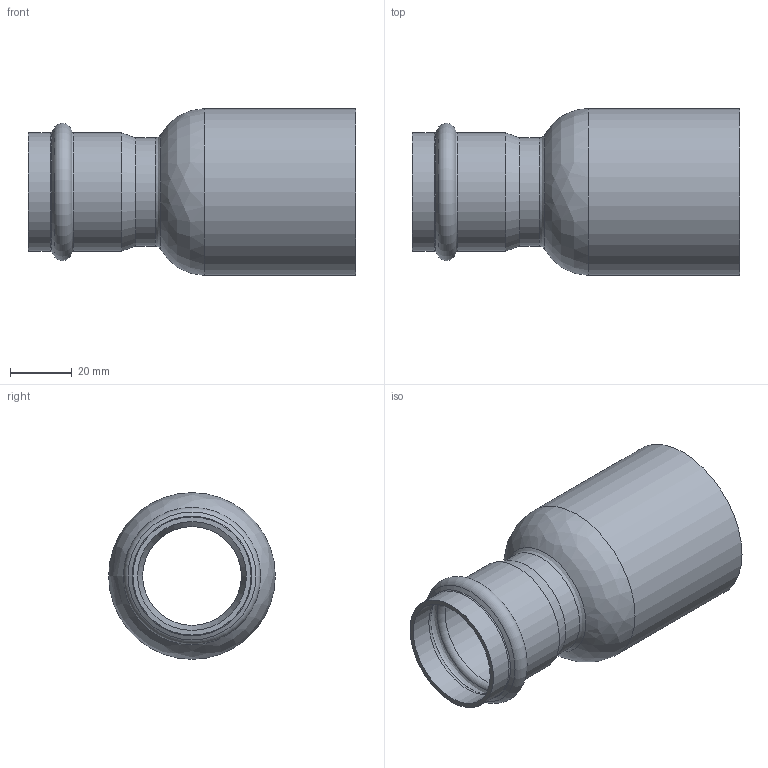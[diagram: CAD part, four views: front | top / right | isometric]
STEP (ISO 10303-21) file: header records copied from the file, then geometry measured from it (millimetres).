
FILE_DESCRIPTION((''),'2;1');
FILE_NAME('G:\Technics\CAD\Bauteile\054\692435435(1).stp','2008-03-05T15:24:51',('herberg'),(''),'Autodesk Inventor 2008','Autodesk Inventor 2008','');
FILE_SCHEMA(('AUTOMOTIVE_DESIGN { 1 0 10303 214 1 1 1 1 }'));
Length unit declared in the file: millimetre
Products named in the file (1): 692435435(1)
Bounding box: 106 x 54 x 54 mm (x, y, z)
Volume: 23970.3 mm3; surface area: 32380.5 mm2
Topology: 1 solids, 1 shells, 24 faces, 46 edges, 24 vertices
Faces by surface type: cylinder 8, bspline 6, torus 4, cone 4, plane 2
Full cylindrical faces by diameter (mm): 32 x1, 35 x1, 35.25 x2, 38.25 x2, 51 x1, 54 x1
Entity records: 790 total; most frequent: CARTESIAN_POINT 373, DIRECTION 86, ORIENTED_EDGE 48, EDGE_LOOP 48, AXIS2_PLACEMENT_3D 43, VERTEX_POINT 24, CIRCLE 24, EDGE_CURVE 24
